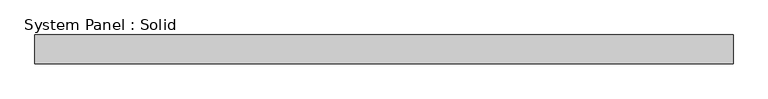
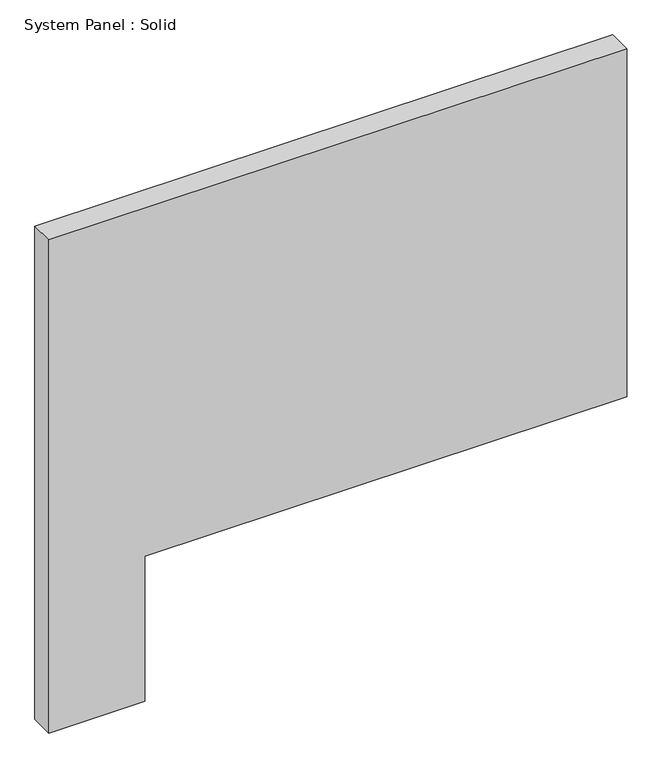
"""IFC4 building model written with IfcOpenShell, lengths in millimetres: plate geometry, System Panel : Solid."""

from ifc_helpers import new_model, si_unit, frame, origin, place, context, project, spatial, polyline, outline, extrude, source, transform, mapped, element, save


def system_panel_solid_f97cb735(model_context):
    return source(origin(), model_context, "Body", "SweptSolid", [
        extrude(outline(polyline([(0.0, -726.123828), (0.0, -484.3664085), (385.0, -484.3664085), (385.0, 726.123828), (1310.0, 726.123828), (1310.0, -726.123828), (0.0, -726.123828)])), frame((0.0, -49.5, 0.0), z_axis=(0.0, 1.0, 0.0), x_axis=(0.0, 0.0, 1.0)), (0.0, 0.0, 1.0), 60.0),
    ])


if __name__ == "__main__":
    model = new_model("IFC4")
    model_context = context("Model", 3, world=origin())
    ifc_project = project(units=[si_unit("LENGTHUNIT", "METRE", prefix="MILLI")], contexts=[model_context])
    site = spatial("IfcSite", under=ifc_project)
    building = spatial("IfcBuilding", under=site)
    placement = place(None, origin())
    system_panel_solid_shape = system_panel_solid_f97cb735(model_context)
    element("IfcPlate", 1, ObjectType="System Panel : Solid", at=placement, inside=building, context=model_context, shape_type="MappedRepresentation", body=[
        mapped(system_panel_solid_shape, transform((0.0, 0.0, 0.0), x_axis=(1.0, 0.0, 0.0), y_axis=(0.0, 1.0, 0.0), z_axis=(0.0, 0.0, 1.0))),
    ])
    save(model, "model.ifc")
